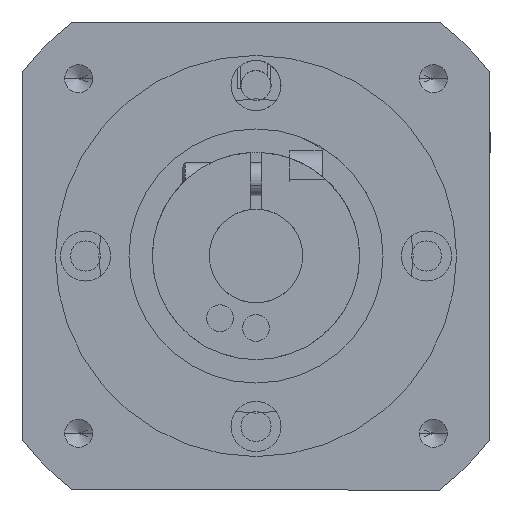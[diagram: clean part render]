
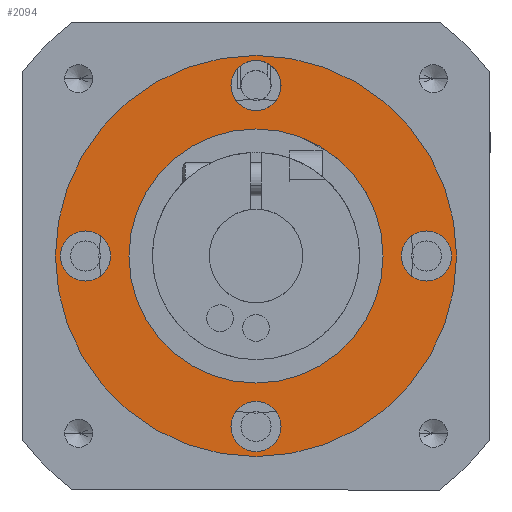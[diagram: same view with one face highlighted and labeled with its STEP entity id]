
A CAD part, front view. The second image highlights one B-rep face of the part: STEP entity #2094.
In plain terms, the highlighted planar face has unit normal (0, -1, 0) as drawn and (0, 0, -1) by its records, which use the part's own axes.
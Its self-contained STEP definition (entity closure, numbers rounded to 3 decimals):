
#411 = DIRECTION ( 'NONE',  ( 1., 0., 0. ) ) ;
#857 = AXIS2_PLACEMENT_3D ( 'NONE', #14989, #32992, #17558 ) ;
#892 = CARTESIAN_POINT ( 'NONE',  ( -3.75, 25.5, -17.5 ) ) ;
#1356 = DIRECTION ( 'NONE',  ( 1., 0., 0. ) ) ;
#1474 = DIRECTION ( 'NONE',  ( 0., 0., -1. ) ) ;
#1595 = CARTESIAN_POINT ( 'NONE',  ( 0., 0., -17.5 ) ) ;
#1841 = EDGE_CURVE ( 'NONE', #1923, #7289, #30359, .T. ) ;
#1855 = AXIS2_PLACEMENT_3D ( 'NONE', #7218, #25291, #9862 ) ;
#1923 = VERTEX_POINT ( 'NONE', #16220 ) ;
#2066 = AXIS2_PLACEMENT_3D ( 'NONE', #1595, #1474, #1356 ) ;
#2094 = ADVANCED_FACE ( 'NONE', ( #26256, #11722, #4835, #33121, #31507, #18574 ), #18869, .T. ) ;
#2224 = ORIENTED_EDGE ( 'NONE', *, *, #23835, .T. ) ;
#2848 = EDGE_CURVE ( 'NONE', #5840, #24838, #25056, .T. ) ;
#4454 = ORIENTED_EDGE ( 'NONE', *, *, #32798, .T. ) ;
#4492 = ORIENTED_EDGE ( 'NONE', *, *, #27301, .T. ) ;
#4574 = CARTESIAN_POINT ( 'NONE',  ( 3.75, -25.5, -17.5 ) ) ;
#4835 = FACE_BOUND ( 'NONE', #13112, .T. ) ;
#5122 = DIRECTION ( 'NONE',  ( 0., 0., 1. ) ) ;
#5203 = EDGE_CURVE ( 'NONE', #27252, #18727, #26540, .T. ) ;
#5587 = CIRCLE ( 'NONE', #31405, 30. ) ;
#5815 = EDGE_CURVE ( 'NONE', #18727, #27252, #19623, .T. ) ;
#5840 = VERTEX_POINT ( 'NONE', #25909 ) ;
#6165 = CIRCLE ( 'NONE', #14804, 3.75 ) ;
#6262 = VERTEX_POINT ( 'NONE', #28364 ) ;
#6889 = DIRECTION ( 'NONE',  ( 0., 0., 1. ) ) ;
#7071 = ORIENTED_EDGE ( 'NONE', *, *, #31626, .T. ) ;
#7107 = DIRECTION ( 'NONE',  ( 0., 0., 1. ) ) ;
#7218 = CARTESIAN_POINT ( 'NONE',  ( 0., 25.5, -17.5 ) ) ;
#7289 = VERTEX_POINT ( 'NONE', #27511 ) ;
#7327 = CARTESIAN_POINT ( 'NONE',  ( 0., 0., -17.5 ) ) ;
#7434 = DIRECTION ( 'NONE',  ( 0., 0., 1. ) ) ;
#7444 = DIRECTION ( 'NONE',  ( 0., 0., 1. ) ) ;
#7678 = CARTESIAN_POINT ( 'NONE',  ( -19., 0., -17.5 ) ) ;
#7714 = DIRECTION ( 'NONE',  ( 0., 0., 1. ) ) ;
#7956 = CARTESIAN_POINT ( 'NONE',  ( 0., 0., -17.5 ) ) ;
#8730 = VERTEX_POINT ( 'NONE', #30316 ) ;
#8863 = AXIS2_PLACEMENT_3D ( 'NONE', #31313, #15861, #411 ) ;
#9111 = VERTEX_POINT ( 'NONE', #26842 ) ;
#9862 = DIRECTION ( 'NONE',  ( -1., 0., 0. ) ) ;
#9987 = DIRECTION ( 'NONE',  ( 1., 0., 0. ) ) ;
#10593 = DIRECTION ( 'NONE',  ( 1., 0., 0. ) ) ;
#11044 = ORIENTED_EDGE ( 'NONE', *, *, #30275, .T. ) ;
#11596 = EDGE_LOOP ( 'NONE', ( #2224, #11044 ) ) ;
#11722 = FACE_BOUND ( 'NONE', #11596, .T. ) ;
#13112 = EDGE_LOOP ( 'NONE', ( #4454, #19322 ) ) ;
#14480 = EDGE_CURVE ( 'NONE', #7289, #1923, #5587, .T. ) ;
#14600 = CARTESIAN_POINT ( 'NONE',  ( 21.75, 0., -17.5 ) ) ;
#14804 = AXIS2_PLACEMENT_3D ( 'NONE', #22361, #6889, #24983 ) ;
#14989 = CARTESIAN_POINT ( 'NONE',  ( 0., 25.5, -17.5 ) ) ;
#15861 = DIRECTION ( 'NONE',  ( 0., 0., 1. ) ) ;
#15874 = AXIS2_PLACEMENT_3D ( 'NONE', #22911, #7444, #25518 ) ;
#16220 = CARTESIAN_POINT ( 'NONE',  ( -30., 0., -17.5 ) ) ;
#16394 = CARTESIAN_POINT ( 'NONE',  ( 29.25, 0., -17.5 ) ) ;
#16412 = ORIENTED_EDGE ( 'NONE', *, *, #31204, .T. ) ;
#16449 = ORIENTED_EDGE ( 'NONE', *, *, #14480, .T. ) ;
#17558 = DIRECTION ( 'NONE',  ( -1., 0., 0. ) ) ;
#17917 = AXIS2_PLACEMENT_3D ( 'NONE', #23166, #7714, #25791 ) ;
#18008 = DIRECTION ( 'NONE',  ( -1., 0., 0. ) ) ;
#18014 = ORIENTED_EDGE ( 'NONE', *, *, #5815, .T. ) ;
#18102 = AXIS2_PLACEMENT_3D ( 'NONE', #7327, #25406, #9987 ) ;
#18326 = DIRECTION ( 'NONE',  ( 0., 0., -1. ) ) ;
#18574 = FACE_BOUND ( 'NONE', #27893, .T. ) ;
#18727 = VERTEX_POINT ( 'NONE', #16394 ) ;
#18869 = PLANE ( 'NONE',  #33164 ) ;
#18974 = CARTESIAN_POINT ( 'NONE',  ( 0., -19., -17.5 ) ) ;
#19322 = ORIENTED_EDGE ( 'NONE', *, *, #2848, .T. ) ;
#19623 = CIRCLE ( 'NONE', #23847, 3.75 ) ;
#20608 = CARTESIAN_POINT ( 'NONE',  ( 25.5, 0., -17.5 ) ) ;
#21635 = VERTEX_POINT ( 'NONE', #29156 ) ;
#21656 = CIRCLE ( 'NONE', #18102, 19. ) ;
#22170 = AXIS2_PLACEMENT_3D ( 'NONE', #22900, #7434, #25509 ) ;
#22274 = ORIENTED_EDGE ( 'NONE', *, *, #26815, .T. ) ;
#22341 = EDGE_LOOP ( 'NONE', ( #16449, #29327 ) ) ;
#22361 = CARTESIAN_POINT ( 'NONE',  ( -25.5, 0., -17.5 ) ) ;
#22583 = CARTESIAN_POINT ( 'NONE',  ( 0., -25.5, -17.5 ) ) ;
#22900 = CARTESIAN_POINT ( 'NONE',  ( 25.5, 0., -17.5 ) ) ;
#22911 = CARTESIAN_POINT ( 'NONE',  ( 0., -25.5, -17.5 ) ) ;
#23166 = CARTESIAN_POINT ( 'NONE',  ( -25.5, 0., -17.5 ) ) ;
#23175 = DIRECTION ( 'NONE',  ( -1., 0., 0. ) ) ;
#23537 = CIRCLE ( 'NONE', #857, 3.75 ) ;
#23599 = CIRCLE ( 'NONE', #27646, 3.75 ) ;
#23835 = EDGE_CURVE ( 'NONE', #8730, #28585, #30199, .T. ) ;
#23847 = AXIS2_PLACEMENT_3D ( 'NONE', #20608, #5122, #23175 ) ;
#24838 = VERTEX_POINT ( 'NONE', #892 ) ;
#24983 = DIRECTION ( 'NONE',  ( -1., 0., 0. ) ) ;
#25056 = CIRCLE ( 'NONE', #1855, 3.75 ) ;
#25190 = DIRECTION ( 'NONE',  ( -1., 0., 0. ) ) ;
#25291 = DIRECTION ( 'NONE',  ( 0., 0., 1. ) ) ;
#25406 = DIRECTION ( 'NONE',  ( 0., 0., 1. ) ) ;
#25509 = DIRECTION ( 'NONE',  ( -1., 0., 0. ) ) ;
#25518 = DIRECTION ( 'NONE',  ( -1., 0., 0. ) ) ;
#25791 = DIRECTION ( 'NONE',  ( -1., 0., 0. ) ) ;
#25909 = CARTESIAN_POINT ( 'NONE',  ( 3.75, 25.5, -17.5 ) ) ;
#26012 = DIRECTION ( 'NONE',  ( 0., 0., -1. ) ) ;
#26256 = FACE_OUTER_BOUND ( 'NONE', #22341, .T. ) ;
#26415 = VERTEX_POINT ( 'NONE', #4574 ) ;
#26540 = CIRCLE ( 'NONE', #22170, 3.75 ) ;
#26815 = EDGE_CURVE ( 'NONE', #21635, #6262, #6165, .T. ) ;
#26842 = CARTESIAN_POINT ( 'NONE',  ( -3.75, -25.5, -17.5 ) ) ;
#27252 = VERTEX_POINT ( 'NONE', #14600 ) ;
#27276 = CIRCLE ( 'NONE', #17917, 3.75 ) ;
#27301 = EDGE_CURVE ( 'NONE', #26415, #9111, #29246, .T. ) ;
#27511 = CARTESIAN_POINT ( 'NONE',  ( 30., 0., -17.5 ) ) ;
#27646 = AXIS2_PLACEMENT_3D ( 'NONE', #22583, #7107, #25190 ) ;
#27862 = EDGE_LOOP ( 'NONE', ( #29825, #18014 ) ) ;
#27893 = EDGE_LOOP ( 'NONE', ( #16412, #22274 ) ) ;
#28364 = CARTESIAN_POINT ( 'NONE',  ( -29.25, 0., -17.5 ) ) ;
#28585 = VERTEX_POINT ( 'NONE', #7678 ) ;
#29156 = CARTESIAN_POINT ( 'NONE',  ( -21.75, 0., -17.5 ) ) ;
#29246 = CIRCLE ( 'NONE', #15874, 3.75 ) ;
#29327 = ORIENTED_EDGE ( 'NONE', *, *, #1841, .T. ) ;
#29825 = ORIENTED_EDGE ( 'NONE', *, *, #5203, .T. ) ;
#30199 = CIRCLE ( 'NONE', #8863, 19. ) ;
#30275 = EDGE_CURVE ( 'NONE', #28585, #8730, #21656, .T. ) ;
#30316 = CARTESIAN_POINT ( 'NONE',  ( 19., 0., -17.5 ) ) ;
#30359 = CIRCLE ( 'NONE', #2066, 30. ) ;
#30713 = EDGE_LOOP ( 'NONE', ( #7071, #4492 ) ) ;
#31204 = EDGE_CURVE ( 'NONE', #6262, #21635, #27276, .T. ) ;
#31313 = CARTESIAN_POINT ( 'NONE',  ( 0., 0., -17.5 ) ) ;
#31405 = AXIS2_PLACEMENT_3D ( 'NONE', #7956, #26012, #10593 ) ;
#31507 = FACE_BOUND ( 'NONE', #30713, .T. ) ;
#31626 = EDGE_CURVE ( 'NONE', #9111, #26415, #23599, .T. ) ;
#32798 = EDGE_CURVE ( 'NONE', #24838, #5840, #23537, .T. ) ;
#32992 = DIRECTION ( 'NONE',  ( 0., 0., 1. ) ) ;
#33121 = FACE_BOUND ( 'NONE', #27862, .T. ) ;
#33164 = AXIS2_PLACEMENT_3D ( 'NONE', #18974, #18326, #18008 ) ;
